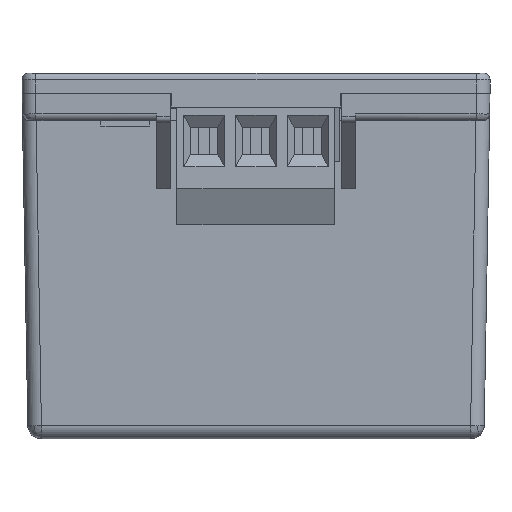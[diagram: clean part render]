
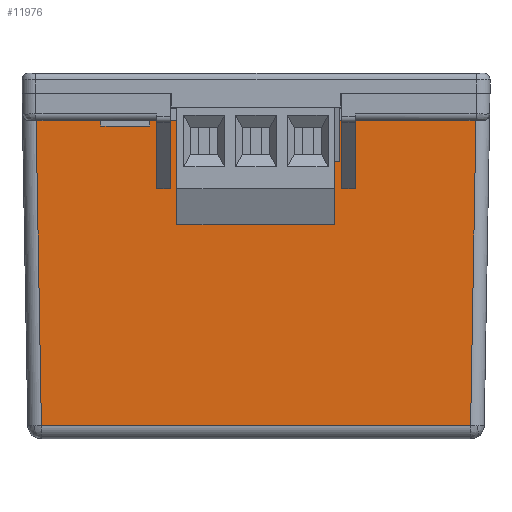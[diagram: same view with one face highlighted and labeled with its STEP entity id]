
A CAD part, left-side view. The second image highlights one B-rep face of the part: STEP entity #11976.
In plain terms, the highlighted planar face has unit normal (-1, 0, -0.018).
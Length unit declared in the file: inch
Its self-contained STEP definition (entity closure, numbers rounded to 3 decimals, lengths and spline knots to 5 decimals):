
#77 = CARTESIAN_POINT ( 'NONE',  ( -0.65995, 0.67717, -0.19685 ) ) ;
#113 = VECTOR ( 'NONE', #4825, 39.37008 ) ;
#289 = CARTESIAN_POINT ( 'NONE',  ( -0.64798, -0.62102, -0.88258 ) ) ;
#517 = CARTESIAN_POINT ( 'NONE',  ( -0.66339, 0.63643, 0. ) ) ;
#666 = ORIENTED_EDGE ( 'NONE', *, *, #3675, .T. ) ;
#1115 = VECTOR ( 'NONE', #9945, 39.37008 ) ;
#1502 = VECTOR ( 'NONE', #5302, 39.37008 ) ;
#1519 = FACE_OUTER_BOUND ( 'NONE', #9658, .T. ) ;
#1781 = EDGE_CURVE ( 'NONE', #21766, #20455, #9881, .T. ) ;
#2173 = EDGE_CURVE ( 'NONE', #23702, #2671, #8408, .T. ) ;
#2671 = VERTEX_POINT ( 'NONE', #13116 ) ;
#2963 = VERTEX_POINT ( 'NONE', #17729 ) ;
#3154 = VECTOR ( 'NONE', #13320, 39.37008 ) ;
#3408 = VERTEX_POINT ( 'NONE', #4353 ) ;
#3522 = VECTOR ( 'NONE', #9538, 39.37008 ) ;
#3675 = EDGE_CURVE ( 'NONE', #14077, #6213, #5420, .T. ) ;
#3722 = VECTOR ( 'NONE', #7076, 39.37008 ) ;
#4353 = CARTESIAN_POINT ( 'NONE',  ( -0.65995, 0.24803, -0.19685 ) ) ;
#4686 = LINE ( 'NONE', #17075, #4717 ) ;
#4717 = VECTOR ( 'NONE', #9728, 39.37008 ) ;
#4825 = DIRECTION ( 'NONE',  ( 0.017, -0.017, -1. ) ) ;
#4837 = VECTOR ( 'NONE', #22083, 39.37008 ) ;
#5297 = CARTESIAN_POINT ( 'NONE',  ( -0.66339, 0.67717, 0. ) ) ;
#5302 = DIRECTION ( 'NONE',  ( 0., 1., 0. ) ) ;
#5420 = LINE ( 'NONE', #16398, #4837 ) ;
#5584 = AXIS2_PLACEMENT_3D ( 'NONE', #20981, #21142, #10020 ) ;
#5635 = DIRECTION ( 'NONE',  ( 0.017, 0., -1. ) ) ;
#6047 = LINE ( 'NONE', #15071, #3154 ) ;
#6158 = CARTESIAN_POINT ( 'NONE',  ( -0.65995, 0.2874, -0.19685 ) ) ;
#6213 = VERTEX_POINT ( 'NONE', #16808 ) ;
#6409 = VERTEX_POINT ( 'NONE', #21279 ) ;
#6725 = LINE ( 'NONE', #15635, #113 ) ;
#7076 = DIRECTION ( 'NONE',  ( 0., -1., 0. ) ) ;
#8051 = VECTOR ( 'NONE', #5635, 39.37008 ) ;
#8237 = VERTEX_POINT ( 'NONE', #19404 ) ;
#8408 = LINE ( 'NONE', #20487, #3522 ) ;
#8891 = CARTESIAN_POINT ( 'NONE',  ( -0.66339, 0.24803, 0. ) ) ;
#9034 = VECTOR ( 'NONE', #19189, 39.37008 ) ;
#9059 = ORIENTED_EDGE ( 'NONE', *, *, #11937, .T. ) ;
#9120 = EDGE_CURVE ( 'NONE', #6409, #8237, #6047, .T. ) ;
#9230 = CARTESIAN_POINT ( 'NONE',  ( -0.66339, 0.2874, 0. ) ) ;
#9538 = DIRECTION ( 'NONE',  ( -0.017, -0.017, 1. ) ) ;
#9658 = EDGE_LOOP ( 'NONE', ( #13267, #20943, #9059, #21106, #23582, #11314, #666, #20534, #22711, #18746, #15086, #21342 ) ) ;
#9728 = DIRECTION ( 'NONE',  ( -0.017, 0., 1. ) ) ;
#9881 = LINE ( 'NONE', #11864, #9034 ) ;
#9930 = LINE ( 'NONE', #12443, #12807 ) ;
#9945 = DIRECTION ( 'NONE',  ( 0., -1., 0. ) ) ;
#10020 = DIRECTION ( 'NONE',  ( -0.017, 0., 1. ) ) ;
#10055 = EDGE_CURVE ( 'NONE', #19739, #3408, #18337, .T. ) ;
#10324 = EDGE_CURVE ( 'NONE', #2963, #23702, #15189, .T. ) ;
#10561 = DIRECTION ( 'NONE',  ( 0., 1., 0. ) ) ;
#10596 = EDGE_CURVE ( 'NONE', #2671, #14077, #14014, .T. ) ;
#10621 = CARTESIAN_POINT ( 'NONE',  ( -0.66339, -0.2874, 0. ) ) ;
#11314 = ORIENTED_EDGE ( 'NONE', *, *, #10596, .T. ) ;
#11764 = EDGE_CURVE ( 'NONE', #14533, #21766, #4686, .T. ) ;
#11864 = CARTESIAN_POINT ( 'NONE',  ( -0.66339, 0., 0. ) ) ;
#11937 = EDGE_CURVE ( 'NONE', #20455, #2963, #6725, .T. ) ;
#11976 = ADVANCED_FACE ( 'NONE', ( #1519 ), #17621, .T. ) ;
#12223 = EDGE_CURVE ( 'NONE', #3408, #14533, #16389, .T. ) ;
#12443 = CARTESIAN_POINT ( 'NONE',  ( -0.66339, 0.67717, 0. ) ) ;
#12807 = VECTOR ( 'NONE', #14209, 39.37008 ) ;
#13116 = CARTESIAN_POINT ( 'NONE',  ( -0.66339, -0.63643, 0. ) ) ;
#13267 = ORIENTED_EDGE ( 'NONE', *, *, #11764, .T. ) ;
#13320 = DIRECTION ( 'NONE',  ( 0.017, 0., -1. ) ) ;
#14014 = LINE ( 'NONE', #5297, #17724 ) ;
#14077 = VERTEX_POINT ( 'NONE', #10621 ) ;
#14209 = DIRECTION ( 'NONE',  ( 0., 1., 0. ) ) ;
#14352 = CARTESIAN_POINT ( 'NONE',  ( -0.65995, -0.26772, -0.19685 ) ) ;
#14533 = VERTEX_POINT ( 'NONE', #6158 ) ;
#15071 = CARTESIAN_POINT ( 'NONE',  ( -0.66339, -0.24803, 0. ) ) ;
#15086 = ORIENTED_EDGE ( 'NONE', *, *, #10055, .T. ) ;
#15189 = LINE ( 'NONE', #18956, #1115 ) ;
#15635 = CARTESIAN_POINT ( 'NONE',  ( -0.66339, 0.63643, 0. ) ) ;
#16389 = LINE ( 'NONE', #77, #1502 ) ;
#16398 = CARTESIAN_POINT ( 'NONE',  ( -0.66339, -0.2874, 0. ) ) ;
#16808 = CARTESIAN_POINT ( 'NONE',  ( -0.65995, -0.2874, -0.19685 ) ) ;
#17075 = CARTESIAN_POINT ( 'NONE',  ( -0.66339, 0.2874, 0. ) ) ;
#17190 = LINE ( 'NONE', #14352, #3722 ) ;
#17621 = PLANE ( 'NONE',  #5584 ) ;
#17724 = VECTOR ( 'NONE', #10561, 39.37008 ) ;
#17729 = CARTESIAN_POINT ( 'NONE',  ( -0.64798, 0.62102, -0.88258 ) ) ;
#18337 = LINE ( 'NONE', #21954, #8051 ) ;
#18746 = ORIENTED_EDGE ( 'NONE', *, *, #23165, .T. ) ;
#18956 = CARTESIAN_POINT ( 'NONE',  ( -0.64798, 0.67717, -0.88258 ) ) ;
#19051 = EDGE_CURVE ( 'NONE', #8237, #6213, #17190, .T. ) ;
#19189 = DIRECTION ( 'NONE',  ( 0., 1., 0. ) ) ;
#19404 = CARTESIAN_POINT ( 'NONE',  ( -0.65995, -0.24803, -0.19685 ) ) ;
#19739 = VERTEX_POINT ( 'NONE', #8891 ) ;
#20455 = VERTEX_POINT ( 'NONE', #517 ) ;
#20487 = CARTESIAN_POINT ( 'NONE',  ( -0.64798, -0.62102, -0.88258 ) ) ;
#20534 = ORIENTED_EDGE ( 'NONE', *, *, #19051, .F. ) ;
#20943 = ORIENTED_EDGE ( 'NONE', *, *, #1781, .T. ) ;
#20981 = CARTESIAN_POINT ( 'NONE',  ( -0.66339, 0.67717, 0. ) ) ;
#21106 = ORIENTED_EDGE ( 'NONE', *, *, #10324, .T. ) ;
#21142 = DIRECTION ( 'NONE',  ( -1., 0., -0.017 ) ) ;
#21279 = CARTESIAN_POINT ( 'NONE',  ( -0.66339, -0.24803, 0. ) ) ;
#21342 = ORIENTED_EDGE ( 'NONE', *, *, #12223, .T. ) ;
#21766 = VERTEX_POINT ( 'NONE', #9230 ) ;
#21954 = CARTESIAN_POINT ( 'NONE',  ( -0.66339, 0.24803, 0. ) ) ;
#22083 = DIRECTION ( 'NONE',  ( 0.017, 0., -1. ) ) ;
#22711 = ORIENTED_EDGE ( 'NONE', *, *, #9120, .F. ) ;
#23165 = EDGE_CURVE ( 'NONE', #6409, #19739, #9930, .T. ) ;
#23582 = ORIENTED_EDGE ( 'NONE', *, *, #2173, .T. ) ;
#23702 = VERTEX_POINT ( 'NONE', #289 ) ;
